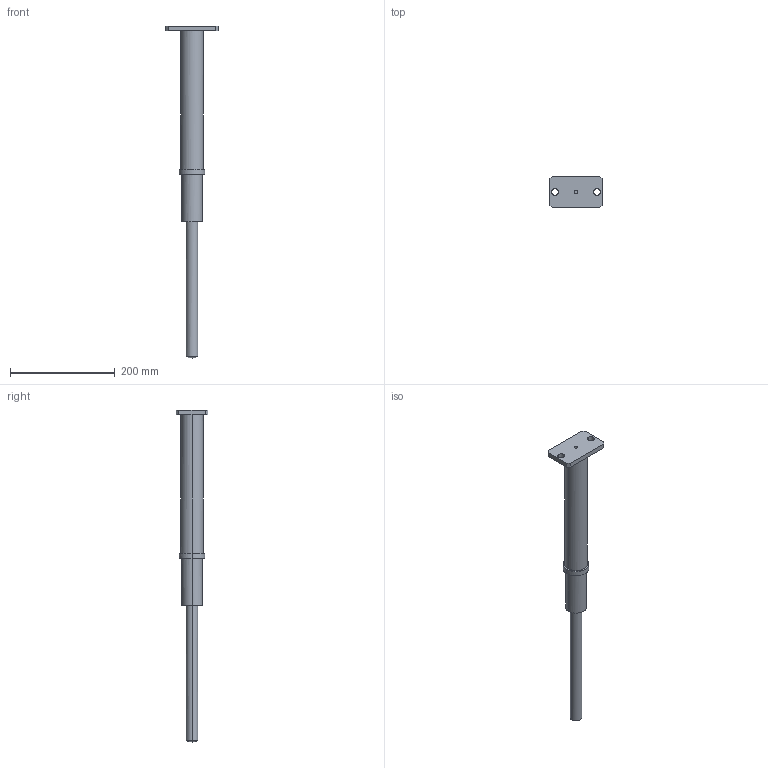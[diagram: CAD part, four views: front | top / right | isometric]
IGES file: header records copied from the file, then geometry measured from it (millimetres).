
Global section: file name: E:\UnigraphicsGraphicData\MISUMI_PRESS-PARTS\IGES\3d_papgs250-90_01665_r00.igs; native system: NX V5.0; preprocessor: UGS NX IGES V5.0; author: MISUMI; date: 20110105.162219; units: millimetre
Bounding box: 100 x 60 x 633 mm (x, y, z)
Surface area: 85626.5 mm2 (no closed solid volume)
Topology: 0 solids, 0 shells, 31 faces, 264 edges, 262 vertices
Faces by surface type: bspline 31
